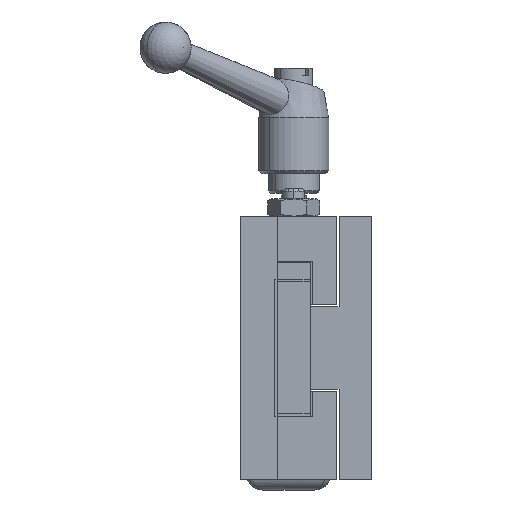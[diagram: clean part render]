
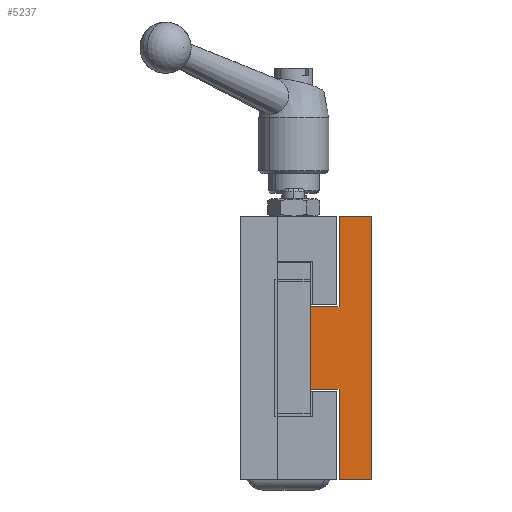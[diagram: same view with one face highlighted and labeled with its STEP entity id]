
A CAD part, left-side view. The second image highlights one B-rep face of the part: STEP entity #5237.
In plain terms, the highlighted planar face has unit normal (-1, 0, 0).
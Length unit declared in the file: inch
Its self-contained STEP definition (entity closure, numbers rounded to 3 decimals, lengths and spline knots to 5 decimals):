
#830 = EDGE_CURVE ( 'NONE', #5336, #5323, #2198, .T. ) ;
#832 = EDGE_CURVE ( 'NONE', #5331, #5336, #2201, .T. ) ;
#834 = EDGE_CURVE ( 'NONE', #5331, #5325, #2210, .T. ) ;
#836 = EDGE_CURVE ( 'NONE', #5325, #5091, #2213, .T. ) ;
#838 = EDGE_CURVE ( 'NONE', #5091, #5332, #2216, .T. ) ;
#841 = EDGE_CURVE ( 'NONE', #5328, #5332, #2219, .T. ) ;
#843 = EDGE_CURVE ( 'NONE', #5318, #5328, #2222, .T. ) ;
#863 = EDGE_CURVE ( 'NONE', #5318, #5323, #2257, .T. ) ;
#1501 = CARTESIAN_POINT ( 'NONE',  ( 0., 0.46875, -0.3125 ) ) ;
#1506 = CARTESIAN_POINT ( 'NONE',  ( 0., 0.46875, 0.3125 ) ) ;
#1508 = CARTESIAN_POINT ( 'NONE',  ( 0., 0., 1. ) ) ;
#1511 = CARTESIAN_POINT ( 'NONE',  ( 0., 0.25, -0.3125 ) ) ;
#1514 = CARTESIAN_POINT ( 'NONE',  ( 0., 0.25, 1. ) ) ;
#1515 = CARTESIAN_POINT ( 'NONE',  ( 0., 0.25, -1. ) ) ;
#1519 = CARTESIAN_POINT ( 'NONE',  ( 0., 0.25, 0.3125 ) ) ;
#2198 = LINE ( 'NONE', #2205, #4141 ) ;
#2201 = LINE ( 'NONE', #2208, #4140 ) ;
#2205 = CARTESIAN_POINT ( 'NONE',  ( 0., 0.46875, 0.3125 ) ) ;
#2207 = DIRECTION ( 'NONE',  ( 0., 1., 0. ) ) ;
#2208 = CARTESIAN_POINT ( 'NONE',  ( 0., 0.25, 1. ) ) ;
#2209 = DIRECTION ( 'NONE',  ( 0., 0., -1. ) ) ;
#2210 = LINE ( 'NONE', #2211, #4139 ) ;
#2211 = CARTESIAN_POINT ( 'NONE',  ( 0., 0.46875, 1. ) ) ;
#2212 = DIRECTION ( 'NONE',  ( 0., -1., 0. ) ) ;
#2213 = LINE ( 'NONE', #2214, #4138 ) ;
#2214 = CARTESIAN_POINT ( 'NONE',  ( 0., 0., 1. ) ) ;
#2215 = DIRECTION ( 'NONE',  ( 0., 0., -1. ) ) ;
#2216 = LINE ( 'NONE', #2217, #4137 ) ;
#2217 = CARTESIAN_POINT ( 'NONE',  ( 0., 0.46875, -1. ) ) ;
#2218 = DIRECTION ( 'NONE',  ( 0., 1., 0. ) ) ;
#2219 = LINE ( 'NONE', #2220, #3877 ) ;
#2220 = CARTESIAN_POINT ( 'NONE',  ( 0., 0.25, -1. ) ) ;
#2221 = DIRECTION ( 'NONE',  ( 0., 0., -1. ) ) ;
#2222 = LINE ( 'NONE', #2224, #4136 ) ;
#2224 = CARTESIAN_POINT ( 'NONE',  ( 0., 0.46875, -0.3125 ) ) ;
#2225 = DIRECTION ( 'NONE',  ( 0., -1., 0. ) ) ;
#2257 = LINE ( 'NONE', #2258, #4129 ) ;
#2258 = CARTESIAN_POINT ( 'NONE',  ( 0., 0.46875, 1. ) ) ;
#2259 = DIRECTION ( 'NONE',  ( 0., 0., 1. ) ) ;
#3446 = PLANE ( 'NONE',  #3849 ) ;
#3448 = CARTESIAN_POINT ( 'NONE',  ( 0., 0., 1. ) ) ;
#3452 = FACE_OUTER_BOUND ( 'NONE', #7666, .T. ) ;
#3454 = DIRECTION ( 'NONE',  ( 1., 0., 0. ) ) ;
#3455 = DIRECTION ( 'NONE',  ( 0., 0., -1. ) ) ;
#3849 = AXIS2_PLACEMENT_3D ( 'NONE', #3448, #3454, #3455 ) ;
#3877 = VECTOR ( 'NONE', #2221, 39.37008 ) ;
#4129 = VECTOR ( 'NONE', #2259, 39.37008 ) ;
#4136 = VECTOR ( 'NONE', #2225, 39.37008 ) ;
#4137 = VECTOR ( 'NONE', #2218, 39.37008 ) ;
#4138 = VECTOR ( 'NONE', #2215, 39.37008 ) ;
#4139 = VECTOR ( 'NONE', #2212, 39.37008 ) ;
#4140 = VECTOR ( 'NONE', #2209, 39.37008 ) ;
#4141 = VECTOR ( 'NONE', #2207, 39.37008 ) ;
#5091 = VERTEX_POINT ( 'NONE', #8735 ) ;
#5237 = ADVANCED_FACE ( 'NONE', ( #3452 ), #3446, .F. ) ;
#5318 = VERTEX_POINT ( 'NONE', #1501 ) ;
#5323 = VERTEX_POINT ( 'NONE', #1506 ) ;
#5325 = VERTEX_POINT ( 'NONE', #1508 ) ;
#5328 = VERTEX_POINT ( 'NONE', #1511 ) ;
#5331 = VERTEX_POINT ( 'NONE', #1514 ) ;
#5332 = VERTEX_POINT ( 'NONE', #1515 ) ;
#5336 = VERTEX_POINT ( 'NONE', #1519 ) ;
#6313 = ORIENTED_EDGE ( 'NONE', *, *, #832, .T. ) ;
#6314 = ORIENTED_EDGE ( 'NONE', *, *, #830, .T. ) ;
#6315 = ORIENTED_EDGE ( 'NONE', *, *, #863, .F. ) ;
#7666 = EDGE_LOOP ( 'NONE', ( #8516, #8517, #8519, #8520, #8521, #6313, #6314, #6315 ) ) ;
#8516 = ORIENTED_EDGE ( 'NONE', *, *, #843, .T. ) ;
#8517 = ORIENTED_EDGE ( 'NONE', *, *, #841, .T. ) ;
#8519 = ORIENTED_EDGE ( 'NONE', *, *, #838, .F. ) ;
#8520 = ORIENTED_EDGE ( 'NONE', *, *, #836, .F. ) ;
#8521 = ORIENTED_EDGE ( 'NONE', *, *, #834, .F. ) ;
#8735 = CARTESIAN_POINT ( 'NONE',  ( 0., 0., -1. ) ) ;
